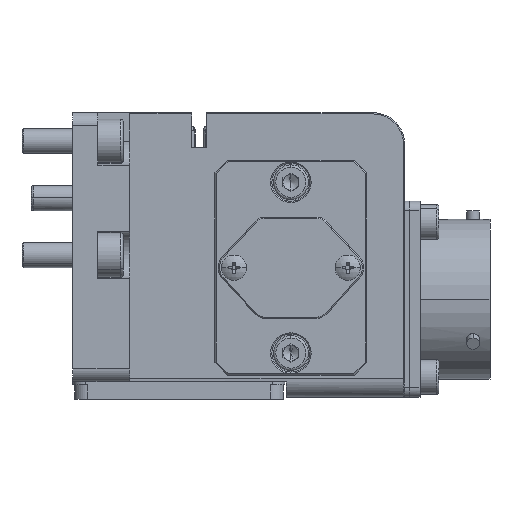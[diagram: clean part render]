
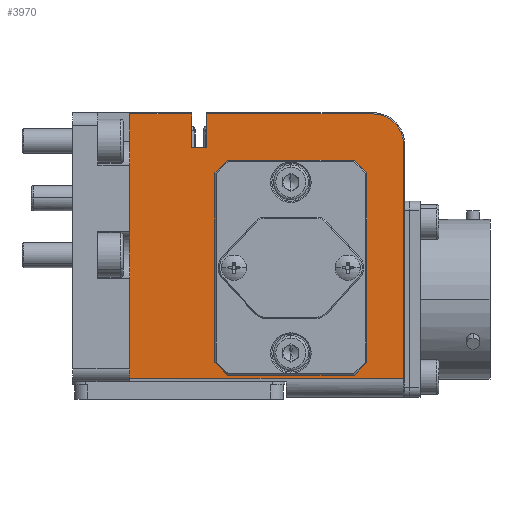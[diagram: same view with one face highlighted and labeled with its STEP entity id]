
A CAD part, left-side view. The second image highlights one B-rep face of the part: STEP entity #3970.
In plain terms, the highlighted planar face has unit normal (-1, 0, 0).
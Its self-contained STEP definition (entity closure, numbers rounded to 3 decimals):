
#69 = LINE ( 'NONE', #21332, #9639 ) ;
#306 = DIRECTION ( 'NONE',  ( 0., -1., 0. ) ) ;
#539 = CARTESIAN_POINT ( 'NONE',  ( -20., -1.45, -9.583 ) ) ;
#568 = VECTOR ( 'NONE', #4541, 1000. ) ;
#617 = VERTEX_POINT ( 'NONE', #18051 ) ;
#704 = VECTOR ( 'NONE', #10669, 1000. ) ;
#906 = VECTOR ( 'NONE', #18654, 1000. ) ;
#955 = DIRECTION ( 'NONE',  ( 0., 1., 0. ) ) ;
#1250 = CARTESIAN_POINT ( 'NONE',  ( -20., 0.05, -0.2 ) ) ;
#1507 = CARTESIAN_POINT ( 'NONE',  ( -20., -23.25, -7.7 ) ) ;
#1801 = CARTESIAN_POINT ( 'NONE',  ( -20., -3.333, -41.3 ) ) ;
#2237 = LINE ( 'NONE', #24969, #16956 ) ;
#2345 = CARTESIAN_POINT ( 'NONE',  ( -20., -31.25, -42. ) ) ;
#3145 = VERTEX_POINT ( 'NONE', #23223 ) ;
#3970 = ADVANCED_FACE ( 'NONE', ( #27448, #5845 ), #15555, .T. ) ;
#4315 = LINE ( 'NONE', #4725, #7377 ) ;
#4541 = DIRECTION ( 'NONE',  ( 0., -1., 0. ) ) ;
#4725 = CARTESIAN_POINT ( 'NONE',  ( -20., -1.45, -9.5 ) ) ;
#4762 = CARTESIAN_POINT ( 'NONE',  ( -20., -26.25, -5. ) ) ;
#4801 = DIRECTION ( 'NONE',  ( -1., 0., 0. ) ) ;
#4805 = CARTESIAN_POINT ( 'NONE',  ( -20., -1.45, -39.417 ) ) ;
#4970 = DIRECTION ( 'NONE',  ( 0., -1., 0. ) ) ;
#5101 = ORIENTED_EDGE ( 'NONE', *, *, #24573, .F. ) ;
#5241 = VECTOR ( 'NONE', #24149, 1000. ) ;
#5447 = EDGE_CURVE ( 'NONE', #11669, #7122, #9187, .T. ) ;
#5614 = CARTESIAN_POINT ( 'NONE',  ( -20., -26.25, -0.2 ) ) ;
#5845 = FACE_OUTER_BOUND ( 'NONE', #24501, .T. ) ;
#5893 = DIRECTION ( 'NONE',  ( 0., -1., 0. ) ) ;
#5908 = CARTESIAN_POINT ( 'NONE',  ( -20., 12.25, -45. ) ) ;
#5922 = LINE ( 'NONE', #17635, #28236 ) ;
#6395 = LINE ( 'NONE', #27179, #906 ) ;
#6539 = LINE ( 'NONE', #21782, #704 ) ;
#6818 = CARTESIAN_POINT ( 'NONE',  ( -20., -23.167, -41.3 ) ) ;
#6887 = EDGE_CURVE ( 'NONE', #21061, #11975, #27878, .T. ) ;
#7027 = EDGE_CURVE ( 'NONE', #3145, #19451, #17277, .T. ) ;
#7122 = VERTEX_POINT ( 'NONE', #1801 ) ;
#7200 = EDGE_CURVE ( 'NONE', #7122, #19469, #12423, .T. ) ;
#7300 = LINE ( 'NONE', #9212, #5241 ) ;
#7377 = VECTOR ( 'NONE', #20043, 1000. ) ;
#7716 = EDGE_CURVE ( 'NONE', #22909, #3145, #11367, .T. ) ;
#7922 = EDGE_CURVE ( 'NONE', #21061, #25457, #69, .T. ) ;
#8012 = DIRECTION ( 'NONE',  ( 0., -0.707, -0.707 ) ) ;
#8422 = EDGE_CURVE ( 'NONE', #22208, #22909, #6539, .T. ) ;
#8706 = CARTESIAN_POINT ( 'NONE',  ( -20., -25.05, -39.417 ) ) ;
#8843 = CARTESIAN_POINT ( 'NONE',  ( -20., 12.25, -42. ) ) ;
#9187 = LINE ( 'NONE', #26907, #10903 ) ;
#9212 = CARTESIAN_POINT ( 'NONE',  ( -20., -26.609, -37.859 ) ) ;
#9326 = EDGE_LOOP ( 'NONE', ( #25064, #20888, #23419, #19063, #16979, #13250, #16982, #16223 ) ) ;
#9639 = VECTOR ( 'NONE', #12618, 1000. ) ;
#10020 = VECTOR ( 'NONE', #25581, 1000. ) ;
#10031 = VERTEX_POINT ( 'NONE', #8843 ) ;
#10056 = EDGE_CURVE ( 'NONE', #10031, #18037, #12254, .T. ) ;
#10302 = LINE ( 'NONE', #14085, #14777 ) ;
#10521 = ORIENTED_EDGE ( 'NONE', *, *, #6887, .F. ) ;
#10669 = DIRECTION ( 'NONE',  ( 0., -0.707, 0.707 ) ) ;
#10725 = EDGE_CURVE ( 'NONE', #19451, #15775, #6395, .T. ) ;
#10903 = VECTOR ( 'NONE', #22602, 1000. ) ;
#11094 = EDGE_CURVE ( 'NONE', #19273, #19028, #24848, .T. ) ;
#11367 = LINE ( 'NONE', #1507, #18570 ) ;
#11591 = ORIENTED_EDGE ( 'NONE', *, *, #27336, .T. ) ;
#11669 = VERTEX_POINT ( 'NONE', #6818 ) ;
#11941 = DIRECTION ( 'NONE',  ( 0., 0., 1. ) ) ;
#11975 = VERTEX_POINT ( 'NONE', #12449 ) ;
#12254 = LINE ( 'NONE', #2345, #568 ) ;
#12350 = DIRECTION ( 'NONE',  ( 0., 0., 1. ) ) ;
#12423 = LINE ( 'NONE', #27865, #10020 ) ;
#12449 = CARTESIAN_POINT ( 'NONE',  ( -20., 0.05, -5.5 ) ) ;
#12618 = DIRECTION ( 'NONE',  ( 0., 0., 1. ) ) ;
#13250 = ORIENTED_EDGE ( 'NONE', *, *, #5447, .T. ) ;
#13315 = LINE ( 'NONE', #27893, #21135 ) ;
#13380 = EDGE_CURVE ( 'NONE', #19469, #22208, #4315, .T. ) ;
#13905 = AXIS2_PLACEMENT_3D ( 'NONE', #17909, #4801, #306 ) ;
#14085 = CARTESIAN_POINT ( 'NONE',  ( -20., 12.25, -0.2 ) ) ;
#14183 = ORIENTED_EDGE ( 'NONE', *, *, #19077, .F. ) ;
#14285 = LINE ( 'NONE', #5908, #19071 ) ;
#14777 = VECTOR ( 'NONE', #955, 1000. ) ;
#14868 = CARTESIAN_POINT ( 'NONE',  ( -20., 2.45, -0.2 ) ) ;
#15553 = VECTOR ( 'NONE', #8012, 1000. ) ;
#15555 = PLANE ( 'NONE',  #13905 ) ;
#15775 = VERTEX_POINT ( 'NONE', #8706 ) ;
#16006 = EDGE_CURVE ( 'NONE', #19028, #17558, #10302, .T. ) ;
#16223 = ORIENTED_EDGE ( 'NONE', *, *, #13380, .T. ) ;
#16956 = VECTOR ( 'NONE', #11941, 1000. ) ;
#16979 = ORIENTED_EDGE ( 'NONE', *, *, #20898, .T. ) ;
#16982 = ORIENTED_EDGE ( 'NONE', *, *, #7200, .T. ) ;
#17277 = LINE ( 'NONE', #21053, #15553 ) ;
#17558 = VERTEX_POINT ( 'NONE', #1250 ) ;
#17635 = CARTESIAN_POINT ( 'NONE',  ( -20., -31.05, -45. ) ) ;
#17689 = DIRECTION ( 'NONE',  ( -1., 0., 0. ) ) ;
#17780 = CARTESIAN_POINT ( 'NONE',  ( -20., -31.05, -5. ) ) ;
#17909 = CARTESIAN_POINT ( 'NONE',  ( -20., 12.25, -45. ) ) ;
#17986 = CARTESIAN_POINT ( 'NONE',  ( -20., 2.45, -5.5 ) ) ;
#18037 = VERTEX_POINT ( 'NONE', #27158 ) ;
#18051 = CARTESIAN_POINT ( 'NONE',  ( -20., 12.25, -0.2 ) ) ;
#18517 = ORIENTED_EDGE ( 'NONE', *, *, #11094, .T. ) ;
#18570 = VECTOR ( 'NONE', #5893, 1000. ) ;
#18654 = DIRECTION ( 'NONE',  ( 0., 0., -1. ) ) ;
#18775 = CARTESIAN_POINT ( 'NONE',  ( -20., -3.333, -7.7 ) ) ;
#19028 = VERTEX_POINT ( 'NONE', #5614 ) ;
#19063 = ORIENTED_EDGE ( 'NONE', *, *, #10725, .T. ) ;
#19071 = VECTOR ( 'NONE', #12350, 1000. ) ;
#19077 = EDGE_CURVE ( 'NONE', #10031, #617, #14285, .T. ) ;
#19273 = VERTEX_POINT ( 'NONE', #17780 ) ;
#19451 = VERTEX_POINT ( 'NONE', #25840 ) ;
#19469 = VERTEX_POINT ( 'NONE', #4805 ) ;
#20043 = DIRECTION ( 'NONE',  ( 0., 0., 1. ) ) ;
#20683 = AXIS2_PLACEMENT_3D ( 'NONE', #4762, #17689, #24472 ) ;
#20888 = ORIENTED_EDGE ( 'NONE', *, *, #7716, .T. ) ;
#20898 = EDGE_CURVE ( 'NONE', #15775, #11669, #7300, .T. ) ;
#21053 = CARTESIAN_POINT ( 'NONE',  ( -20., -26.609, -11.141 ) ) ;
#21061 = VERTEX_POINT ( 'NONE', #27019 ) ;
#21135 = VECTOR ( 'NONE', #27373, 1000. ) ;
#21332 = CARTESIAN_POINT ( 'NONE',  ( -20., 2.45, -5.5 ) ) ;
#21782 = CARTESIAN_POINT ( 'NONE',  ( -20., 0.109, -11.141 ) ) ;
#22208 = VERTEX_POINT ( 'NONE', #539 ) ;
#22490 = ORIENTED_EDGE ( 'NONE', *, *, #7922, .T. ) ;
#22602 = DIRECTION ( 'NONE',  ( 0., 1., 0. ) ) ;
#22909 = VERTEX_POINT ( 'NONE', #18775 ) ;
#23223 = CARTESIAN_POINT ( 'NONE',  ( -20., -23.167, -7.7 ) ) ;
#23419 = ORIENTED_EDGE ( 'NONE', *, *, #7027, .T. ) ;
#23728 = ORIENTED_EDGE ( 'NONE', *, *, #16006, .T. ) ;
#24149 = DIRECTION ( 'NONE',  ( 0., 0.707, -0.707 ) ) ;
#24472 = DIRECTION ( 'NONE',  ( 0., -1., 0. ) ) ;
#24501 = EDGE_LOOP ( 'NONE', ( #22490, #11591, #14183, #27236, #25914, #18517, #23728, #5101, #10521 ) ) ;
#24573 = EDGE_CURVE ( 'NONE', #11975, #17558, #2237, .T. ) ;
#24848 = CIRCLE ( 'NONE', #20683, 4.8 ) ;
#24969 = CARTESIAN_POINT ( 'NONE',  ( -20., 0.05, -5.5 ) ) ;
#25064 = ORIENTED_EDGE ( 'NONE', *, *, #8422, .T. ) ;
#25457 = VERTEX_POINT ( 'NONE', #14868 ) ;
#25473 = EDGE_CURVE ( 'NONE', #18037, #19273, #5922, .T. ) ;
#25581 = DIRECTION ( 'NONE',  ( 0., 0.707, 0.707 ) ) ;
#25840 = CARTESIAN_POINT ( 'NONE',  ( -20., -25.05, -9.583 ) ) ;
#25914 = ORIENTED_EDGE ( 'NONE', *, *, #25473, .T. ) ;
#26907 = CARTESIAN_POINT ( 'NONE',  ( -20., -3.25, -41.3 ) ) ;
#27019 = CARTESIAN_POINT ( 'NONE',  ( -20., 2.45, -5.5 ) ) ;
#27158 = CARTESIAN_POINT ( 'NONE',  ( -20., -31.05, -42. ) ) ;
#27179 = CARTESIAN_POINT ( 'NONE',  ( -20., -25.05, -39.5 ) ) ;
#27236 = ORIENTED_EDGE ( 'NONE', *, *, #10056, .T. ) ;
#27336 = EDGE_CURVE ( 'NONE', #25457, #617, #13315, .T. ) ;
#27373 = DIRECTION ( 'NONE',  ( 0., 1., 0. ) ) ;
#27448 = FACE_BOUND ( 'NONE', #9326, .T. ) ;
#27865 = CARTESIAN_POINT ( 'NONE',  ( -20., 0.109, -37.859 ) ) ;
#27878 = LINE ( 'NONE', #17986, #28234 ) ;
#27893 = CARTESIAN_POINT ( 'NONE',  ( -20., 12.25, -0.2 ) ) ;
#28068 = DIRECTION ( 'NONE',  ( 0., 0., 1. ) ) ;
#28234 = VECTOR ( 'NONE', #4970, 1000. ) ;
#28236 = VECTOR ( 'NONE', #28068, 1000. ) ;
